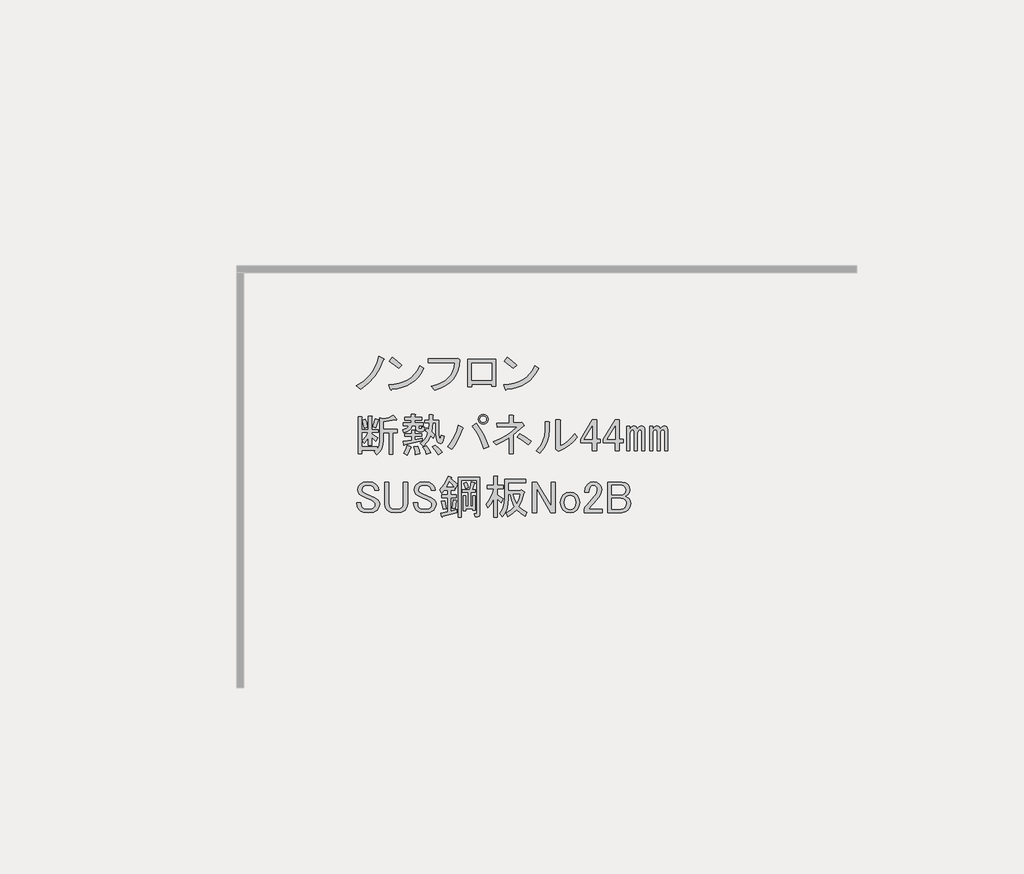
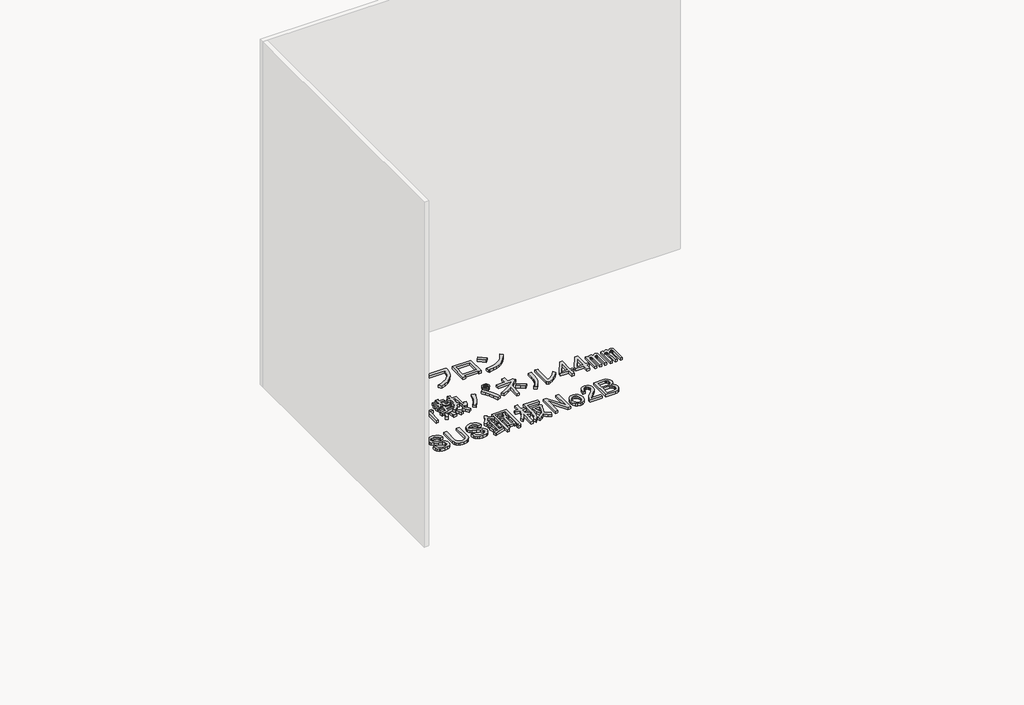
# One storey, part 89 of 117: 1 proxy.
"""IFC4 building model written with IfcOpenShell, lengths in millimetres."""

from ifc_helpers import new_model, si_unit, frame, origin, place, context, project, spatial, polyline, outline, extrude, element, save

model = new_model("IFC4")

# Units and contexts
model_context = context("Model", 3, world=origin())
ifc_project = project(units=[si_unit("LENGTHUNIT", "METRE", prefix="MILLI")], contexts=[model_context])

# Site, building, storey
site = spatial("IfcSite", under=ifc_project)
building = spatial("IfcBuilding", under=site)
storey = spatial("IfcBuildingStorey", under=building, Name="レベル 1", Elevation=500.0)

# Proxy
placement = place(None, origin())
element("IfcBuildingElementProxy", 1, Name="200㎜\u3000MS Pゴシック", ObjectType="200㎜\u3000MS Pゴシック", at=placement, inside=storey, context=model_context, shape_type="SweptSolid", body=[
    extrude(outline(polyline([(8943.6706985, 11392.9503118), (8918.0952502, 11333.1784775), (8889.646156, 11287.2001434), (8847.9782907, 11241.7965385), (8798.8389462, 11204.439142), (8771.2519457, 11226.2788507), (8818.9544673, 11256.7394971), (8858.6107805, 11295.2463519), (8875.9963381, 11319.1694538), (8891.3703435, 11347.2593423), (8904.7327969, 11379.5160173), (8916.0836981, 11415.9394788), (8947.1190736, 11402.1459786), (8950.2800841, 11397.5481452), (8943.6706985, 11392.9503118)])), frame((0.0, 0.0, 500.0), z_axis=(0.0, 0.0, 1.0), x_axis=(1.0, 0.0, 0.0)), (0.0, 0.0, 1.0), 25.0),
    extrude(outline(polyline([(9043.3977052, 11337.7763109), (8984.7753292, 11384.9041033), (9004.3161212, 11409.0427287), (9031.6157571, 11389.2145721), (9065.2374138, 11359.6160196), (9043.3977052, 11337.7763109)])), frame((0.0, 0.0, 500.0), z_axis=(0.0, 0.0, 1.0), x_axis=(1.0, 0.0, 0.0)), (0.0, 0.0, 1.0), 25.0),
    extrude(outline(polyline([(9205.4713328, 11337.7763109), (9188.947869, 11308.034076), (9169.8381239, 11282.0275808), (9148.1420975, 11259.7568252), (9123.8597898, 11241.2218093), (9096.9912008, 11226.422533), (9067.5363306, 11215.3589964), (9035.495179, 11208.0311994), (9000.8677461, 11204.439142), (8995.1204544, 11196.3929336), (8989.3731626, 11202.1402253), (8980.1774958, 11232.0261425), (9016.0082679, 11234.7022252), (9048.7857912, 11241.0062859), (9078.5100658, 11250.9383244), (9105.1810916, 11264.4983409), (9128.7988687, 11281.6863354), (9149.363397, 11302.5023077), (9166.8746766, 11326.946258), (9181.3327074, 11355.0181862), (9205.4713328, 11337.7763109)])), frame((0.0, 0.0, 500.0), z_axis=(0.0, 0.0, 1.0), x_axis=(1.0, 0.0, 0.0)), (0.0, 0.0, 1.0), 25.0),
    extrude(outline(polyline([(9256.2314136, 11222.8304757), (9290.014713, 11232.5110702), (9319.5234641, 11244.8857078), (9344.757667, 11259.9543884), (9365.7173217, 11277.717112), (9382.402428, 11298.1738786), (9394.8129862, 11321.3246882), (9402.9489961, 11347.1695409), (9406.8104577, 11375.7084365), (9234.3917049, 11375.7084365), (9234.3917049, 11400.9965202), (9409.1093744, 11400.9965202), (9425.2017914, 11404.4448953), (9437.8458332, 11392.9503118), (9434.325617, 11356.4550091), (9426.0638851, 11323.4080815), (9413.0606375, 11293.8095289), (9395.3158742, 11267.6593514), (9372.8295952, 11244.957549), (9345.6018005, 11225.7041216), (9313.6324901, 11209.8990692), (9276.921664, 11197.5423919), (9256.2314136, 11222.8304757)])), frame((0.0, 0.0, 500.0), z_axis=(0.0, 0.0, 1.0), x_axis=(1.0, 0.0, 0.0)), (0.0, 0.0, 1.0), 25.0),
    extrude(outline(polyline([(9670.955987, 11223.979934), (9644.5184449, 11223.979934), (9644.5184449, 11236.6239759), (9516.9285679, 11236.6239759), (9516.9285679, 11218.2326423), (9490.4910258, 11218.2326423), (9490.4910258, 11397.5481452), (9670.955987, 11397.5481452), (9670.955987, 11223.979934)]), holes=[polyline([(9516.9285679, 11372.2600614), (9516.9285679, 11261.9120596), (9644.5184449, 11261.9120596), (9644.5184449, 11372.2600614), (9516.9285679, 11372.2600614)])]), frame((0.0, 0.0, 500.0), z_axis=(0.0, 0.0, 1.0), x_axis=(1.0, 0.0, 0.0)), (0.0, 0.0, 1.0), 25.0),
    extrude(outline(polyline([(9947.0099049, 11337.7763109), (9930.4864411, 11308.034076), (9911.376696, 11282.0275808), (9889.6806696, 11259.7568252), (9865.3983619, 11241.2218093), (9838.5297729, 11226.422533), (9809.0749026, 11215.3589964), (9777.0337511, 11208.0311994), (9742.4063182, 11204.439142), (9736.6590264, 11196.3929336), (9730.9117347, 11202.1402253), (9721.7160679, 11232.0261425), (9757.5468399, 11234.7022252), (9790.3243633, 11241.0062859), (9820.0486378, 11250.9383244), (9846.7196637, 11264.4983409), (9870.3374407, 11281.6863354), (9890.9019691, 11302.5023077), (9908.4132486, 11326.946258), (9922.8712795, 11355.0181862), (9947.0099049, 11337.7763109)])), frame((0.0, 0.0, 500.0), z_axis=(0.0, 0.0, 1.0), x_axis=(1.0, 0.0, 0.0)), (0.0, 0.0, 1.0), 25.0),
    extrude(outline(polyline([(9784.9362772, 11337.7763109), (9726.3139013, 11384.9041033), (9745.8546933, 11409.0427287), (9773.1543291, 11389.2145721), (9806.7759859, 11359.6160196), (9784.9362772, 11337.7763109)])), frame((0.0, 0.0, 500.0), z_axis=(0.0, 0.0, 1.0), x_axis=(1.0, 0.0, 0.0)), (0.0, 0.0, 1.0), 25.0),
    extrude(outline(polyline([(8877.0021141, 10960.7654779), (8894.2439894, 11013.6405621), (8914.9342397, 11007.8932704), (8916.6584273, 11004.7322599), (8912.635323, 11002.1459786), (8895.3934478, 10953.8687278), (8877.0021141, 10960.7654779)])), frame((0.0, 0.0, 500.0), z_axis=(0.0, 0.0, 1.0), x_axis=(1.0, 0.0, 0.0)), (0.0, 0.0, 1.0), 25.0),
    extrude(outline(polyline([(9031.0295333, 11009.0427287), (9029.3053458, 11004.4448953), (9021.8338665, 11006.743812), (8944.8201569, 10994.0997701), (8944.8201569, 10944.673061), (9036.7768251, 10944.673061), (9036.7768251, 10922.8333523), (9005.7414495, 10922.8333523), (9005.7414495, 10782.5994334), (8982.7522825, 10782.5994334), (8982.7522825, 10922.8333523), (8944.8201569, 10922.8333523), (8944.8201569, 10873.4066432), (8942.2338756, 10845.6041193), (8934.4750317, 10820.8189236), (8921.5436253, 10799.051056), (8903.4396562, 10780.3005167), (8886.1977809, 10799.8413086), (8896.5429061, 10809.0369755), (8806.8851546, 10809.0369755), (8806.8851546, 10787.1972668), (8783.8959876, 10787.1972668), (8783.8959876, 11026.284604), (8805.7356963, 11026.284604), (8810.6208943, 11023.9856873), (8806.8851546, 11019.3878539), (8806.8851546, 10943.5236026), (8849.4151137, 10943.5236026), (8849.4151137, 11030.8824374), (8867.8064473, 11030.8824374), (8872.6916453, 11028.5835207), (8868.9559057, 11023.9856873), (8868.9559057, 10943.5236026), (8912.635323, 10943.5236026), (8912.635323, 10925.132269), (8868.9559057, 10925.132269), (8868.9559057, 10915.9366022), (8909.186948, 10889.4990601), (8895.3934478, 10867.6593514), (8868.9559057, 10894.0968935), (8868.9559057, 10841.2218093), (8849.4151137, 10841.2218093), (8849.4151137, 10889.4990601), (8836.1963426, 10869.6709035), (8821.8281132, 10853.8658512), (8809.1840713, 10872.2571848), (8831.02378, 10896.3958102), (8848.2656553, 10925.132269), (8806.8851546, 10925.132269), (8806.8851546, 10830.8766841), (8904.5891146, 10830.8766841), (8904.5891146, 10817.0831839), (8917.520521, 10841.2218093), (8921.8309898, 10874.5561015), (8921.8309898, 11019.3878539), (8943.6706985, 11013.6405621), (8979.8786366, 11021.1120414), (9010.339283, 11034.3308125), (9031.0295333, 11009.0427287)])), frame((0.0, 0.0, 500.0), z_axis=(0.0, 0.0, 1.0), x_axis=(1.0, 0.0, 0.0)), (0.0, 0.0, 1.0), 25.0),
    extrude(outline(polyline([(8822.9775716, 10952.7192695), (8810.3335297, 11003.2954369), (8829.8743217, 11010.1921871), (8837.6331656, 10986.0535617), (8842.5183636, 10959.6160196), (8822.9775716, 10952.7192695)])), frame((0.0, 0.0, 500.0), z_axis=(0.0, 0.0, 1.0), x_axis=(1.0, 0.0, 0.0)), (0.0, 0.0, 1.0), 25.0),
    extrude(outline(polyline([(9121.8367431, 10832.0261425), (9125.2851182, 10827.1409445), (9119.5378264, 10823.979934), (9109.7674304, 10798.4044857), (9098.8475761, 10779.1510583), (9075.858409, 10790.6456418), (9088.5024509, 10814.209538), (9098.8475761, 10841.2218093), (9121.8367431, 10832.0261425)])), frame((0.0, 0.0, 500.0), z_axis=(0.0, 0.0, 1.0), x_axis=(1.0, 0.0, 0.0)), (0.0, 0.0, 1.0), 25.0),
    extrude(outline(polyline([(9166.6656188, 10836.6239759), (9176.7233794, 10809.32434), (9181.6085774, 10787.1972668), (9152.8721186, 10781.449975), (9150.2858373, 10803.0023191), (9142.5269934, 10833.1756008), (9166.6656188, 10836.6239759)])), frame((0.0, 0.0, 500.0), z_axis=(0.0, 0.0, 1.0), x_axis=(1.0, 0.0, 0.0)), (0.0, 0.0, 1.0), 25.0),
    extrude(outline(polyline([(9281.611454, 10842.3712677), (9306.3248086, 10821.1062881), (9325.2908714, 10796.3929336), (9298.8533293, 10781.449975), (9279.5999019, 10811.0485276), (9260.9212037, 10830.8766841), (9281.611454, 10842.3712677)])), frame((0.0, 0.0, 500.0), z_axis=(0.0, 0.0, 1.0), x_axis=(1.0, 0.0, 0.0)), (0.0, 0.0, 1.0), 25.0),
    extrude(outline(polyline([(9222.9890781, 10783.7488917), (9214.655505, 10808.4622463), (9201.1493694, 10829.7272258), (9221.8396197, 10837.7734343), (9238.7941304, 10816.2210902), (9250.5760785, 10792.9445585), (9222.9890781, 10783.7488917)])), frame((0.0, 0.0, 500.0), z_axis=(0.0, 0.0, 1.0), x_axis=(1.0, 0.0, 0.0)), (0.0, 0.0, 1.0), 25.0),
    extrude(outline(polyline([(9083.9046175, 10846.9691011), (9081.8930654, 10842.0839031), (9078.1573257, 10843.520726), (9072.410034, 10867.6593514), (9127.5840349, 10875.7055599), (9127.5840349, 10898.6947269), (9083.9046175, 10898.6947269), (9083.9046175, 10917.0860605), (9127.5840349, 10917.0860605), (9127.5840349, 10940.0752276), (9145.9753685, 10940.0752276), (9150.8605665, 10937.7763109), (9147.1248268, 10933.1784775), (9147.1248268, 10917.0860605), (9191.9537026, 10917.0860605), (9191.9537026, 10898.6947269), (9147.1248268, 10898.6947269), (9147.1248268, 10879.1539349), (9197.7009943, 10888.3496017), (9197.7009943, 10872.2571848), (9083.9046175, 10846.9691011)])), frame((0.0, 0.0, 500.0), z_axis=(0.0, 0.0, 1.0), x_axis=(1.0, 0.0, 0.0)), (0.0, 0.0, 1.0), 25.0),
    extrude(outline(polyline([(9154.021577, 10968.8116864), (9128.7334932, 10968.8116864), (9124.1356598, 10951.3542877), (9113.7905346, 10938.0636755), (9097.6981177, 10928.9398498), (9075.858409, 10923.9828107), (9071.2605756, 10943.5236026), (9096.5486594, 10952.1445403), (9104.0201386, 10959.4723373), (9108.0432429, 10968.8116864), (9072.410034, 10968.8116864), (9072.410034, 10987.20302), (9126.4345765, 10987.20302), (9126.4345765, 11004.4448953), (9082.7551591, 11004.4448953), (9082.7551591, 11022.8362289), (9126.4345765, 11022.8362289), (9126.4345765, 11041.2275626), (9148.2742852, 11041.2275626), (9153.1594832, 11038.9286459), (9149.4237436, 11034.3308125), (9149.4237436, 11022.8362289), (9191.9537026, 11022.8362289), (9191.9537026, 11004.4448953), (9149.4237436, 11004.4448953), (9149.4237436, 10987.20302), (9202.2988277, 10987.20302), (9202.2988277, 10968.8116864), (9173.5623689, 10968.8116864), (9173.5623689, 10956.1676445), (9174.9991919, 10950.9950819), (9179.3096607, 10949.2708944), (9189.6547859, 10949.2708944), (9193.3905255, 10952.4319049), (9193.1031609, 10961.9149363), (9212.6439529, 10959.6160196), (9209.770307, 10938.0636755), (9204.4540622, 10932.6755894), (9196.551536, 10930.8795608), (9172.4129106, 10930.8795608), (9158.6194104, 10935.7647588), (9154.021577, 10950.4203528), (9154.021577, 10968.8116864)])), frame((0.0, 0.0, 500.0), z_axis=(0.0, 0.0, 1.0), x_axis=(1.0, 0.0, 0.0)), (0.0, 0.0, 1.0), 25.0),
    extrude(outline(polyline([(9285.0598291, 10986.0535617), (9263.2201204, 10986.0535617), (9258.622287, 10928.5806441), (9278.163079, 10910.1893104), (9267.8179538, 10888.3496017), (9251.7255369, 10904.4420187), (9232.4721095, 10866.7972576), (9202.2988277, 10834.3250592), (9185.0569525, 10855.0153095), (9200.1435933, 10866.9409399), (9213.2186821, 10882.0275808), (9224.2822187, 10900.2752321), (9233.3342033, 10921.683894), (9216.092328, 10936.6268525), (9224.1385364, 10953.8687278), (9237.9320367, 10943.5236026), (9240.2309534, 10986.0535617), (9212.6439529, 10986.0535617), (9212.6439529, 11004.4448953), (9240.2309534, 11004.4448953), (9240.2309534, 11038.9286459), (9262.0706621, 11038.9286459), (9266.95586, 11036.6297292), (9263.2201204, 11032.0318957), (9263.2201204, 11004.4448953), (9304.6006211, 11004.4448953), (9304.6006211, 10907.8903937), (9308.0489961, 10883.7517683), (9311.2818477, 10881.7402162), (9314.0836525, 10884.9012267), (9318.3941213, 10906.7409354), (9337.9349133, 10899.8441853), (9333.408921, 10873.0474374), (9325.578236, 10857.0268616), (9314.4428582, 10851.7824579), (9300.0027877, 10857.3142262), (9293.4652433, 10864.6420232), (9288.7955687, 10876.280289), (9285.0598291, 10912.4882271), (9285.0598291, 10986.0535617)])), frame((0.0, 0.0, 500.0), z_axis=(0.0, 0.0, 1.0), x_axis=(1.0, 0.0, 0.0)), (0.0, 0.0, 1.0), 25.0),
    extrude(outline(polyline([(9543.6879583, 10983.754645), (9570.3410238, 10947.0438188), (9592.8273029, 10909.3272167), (9611.1467953, 10870.6048384), (9625.2995013, 10830.8766841), (9594.2641258, 10820.531559), (9578.8182792, 10863.6362472), (9561.2171982, 10902.143102), (9541.4608827, 10936.0521234), (9519.5493329, 10965.3633113), (9543.6879583, 10983.754645)])), frame((0.0, 0.0, 500.0), z_axis=(0.0, 0.0, 1.0), x_axis=(1.0, 0.0, 0.0)), (0.0, 0.0, 1.0), 25.0),
    extrude(outline(polyline([(9456.3291235, 10957.3171029), (9460.3522278, 10951.8571757), (9454.0302068, 10946.9719777), (9442.1045764, 10911.5542922), (9427.0179356, 10877.717112), (9408.7702842, 10845.460437), (9387.3616224, 10814.7842672), (9360.9240803, 10832.0261425), (9384.1287708, 10863.4925649), (9403.1666748, 10896.9705394), (9418.0377922, 10932.460066), (9428.7421231, 10969.9611447), (9456.3291235, 10957.3171029)])), frame((0.0, 0.0, 500.0), z_axis=(0.0, 0.0, 1.0), x_axis=(1.0, 0.0, 0.0)), (0.0, 0.0, 1.0), 25.0),
    extrude(outline(polyline([(9589.6662924, 10978.0073532), (9577.0222505, 10980.3062699), (9566.6771253, 10987.20302), (9559.7803752, 10997.5481452), (9557.4814585, 11010.1921871), (9559.7803752, 11022.8362289), (9566.6771253, 11033.1813541), (9577.0222505, 11040.0781042), (9589.6662924, 11042.3770209), (9602.3103343, 11040.0781042), (9612.6554594, 11033.1813541), (9619.5522095, 11022.8362289), (9621.8511262, 11010.1921871), (9619.5522095, 10997.5481452), (9612.6554594, 10987.20302), (9602.3103343, 10980.3062699), (9589.6662924, 10978.0073532)]), holes=[polyline([(9589.6662924, 10989.5019367), (9597.9998654, 10990.9387597), (9604.609251, 10995.2492285), (9608.9197198, 11001.858614), (9610.3565427, 11010.1921871), (9608.9197198, 11018.5257601), (9604.609251, 11025.1351456), (9597.9998654, 11029.4456145), (9589.6662924, 11030.8824374), (9581.3327193, 11029.4456145), (9574.7233338, 11025.1351456), (9570.412865, 11018.5257601), (9568.976042, 11010.1921871), (9570.412865, 11001.858614), (9574.7233338, 10995.2492285), (9581.3327193, 10990.9387597), (9589.6662924, 10989.5019367)])]), frame((0.0, 0.0, 500.0), z_axis=(0.0, 0.0, 1.0), x_axis=(1.0, 0.0, 0.0)), (0.0, 0.0, 1.0), 25.0),
    extrude(outline(polyline([(9879.3297971, 10844.6701844), (9842.2597652, 10873.9813723), (9809.2128376, 10895.2463519), (9826.4547129, 10917.0860605), (9865.2489323, 10893.8095289), (9898.8705891, 10867.6593514), (9879.3297971, 10844.6701844)])), frame((0.0, 0.0, 500.0), z_axis=(0.0, 0.0, 1.0), x_axis=(1.0, 0.0, 0.0)), (0.0, 0.0, 1.0), 25.0),
    extrude(outline(polyline([(9833.351463, 10988.3524784), (9840.2482131, 10990.6513951), (9852.892255, 10973.4095198), (9854.0417134, 10967.3748634), (9848.2944216, 10965.3633113), (9785.0742122, 10909.0398521), (9785.0742122, 10788.3467251), (9758.6366701, 10788.3467251), (9758.6366701, 10890.6485184), (9718.4056278, 10866.5098931), (9673.5767521, 10844.6701844), (9654.0359601, 10865.3604347), (9699.5832473, 10884.8293855), (9740.8200657, 10907.6030291), (9777.7464152, 10933.6813655), (9810.362296, 10963.0643946), (9680.4735022, 10957.3171029), (9677.0251271, 10982.6051866), (9758.6366701, 10984.9041033), (9758.6366701, 11036.6297292), (9781.6258372, 11036.6297292), (9787.6604935, 11033.1813541), (9785.0742122, 11027.4340623), (9785.0742122, 10986.0535617), (9833.351463, 10988.3524784)])), frame((0.0, 0.0, 500.0), z_axis=(0.0, 0.0, 1.0), x_axis=(1.0, 0.0, 0.0)), (0.0, 0.0, 1.0), 25.0),
    extrude(outline(polyline([(9932.296838, 10806.7380587), (9957.4412394, 10835.9774056), (9975.4015262, 10868.5214452), (9986.1776982, 10904.3701775), (9989.7697556, 10943.5236026), (9989.7697556, 10995.2492285), (10013.908381, 10995.2492285), (10019.6556727, 10991.8008534), (10016.2072977, 10986.0535617), (10016.2072977, 10944.673061), (10012.3997169, 10898.9102504), (10000.9769745, 10858.17632), (9981.9390705, 10822.4712699), (9955.286005, 10791.7951002), (9932.296838, 10806.7380587)])), frame((0.0, 0.0, 500.0), z_axis=(0.0, 0.0, 1.0), x_axis=(1.0, 0.0, 0.0)), (0.0, 0.0, 1.0), 25.0),
    extrude(outline(polyline([(10086.3242571, 10837.7734343), (10111.1094529, 10849.9864292), (10134.8888725, 10867.0846222), (10157.6625161, 10889.0680132), (10179.4303837, 10915.9366022), (10195.5228006, 10894.0968935), (10172.246269, 10866.2943696), (10146.0960914, 10842.6586322), (10117.0722681, 10823.1896814), (10085.1747988, 10807.8875171), (10075.979132, 10803.2896837), (10057.5877983, 10817.0831839), (10059.886715, 10822.8304757), (10059.886715, 11007.8932704), (10084.0253404, 11007.8932704), (10089.7726322, 11004.4448953), (10086.3242571, 10998.6976035), (10086.3242571, 10837.7734343)])), frame((0.0, 0.0, 500.0), z_axis=(0.0, 0.0, 1.0), x_axis=(1.0, 0.0, 0.0)), (0.0, 0.0, 1.0), 25.0),
    extrude(outline(polyline([(10295.5256772, 11006.743812), (10321.9632193, 11006.743812), (10321.9632193, 10880.3033933), (10346.1018447, 10880.3033933), (10346.1018447, 10858.4636846), (10321.9632193, 10858.4636846), (10321.9632193, 10807.8875171), (10295.5256772, 10807.8875171), (10295.5256772, 10858.4636846), (10218.5119676, 10858.4636846), (10218.5119676, 10881.4528516), (10295.5256772, 11006.743812)]), holes=[polyline([(10295.5256772, 10964.213853), (10243.8000514, 10880.3033933), (10295.5256772, 10880.3033933), (10295.5256772, 10964.213853)])]), frame((0.0, 0.0, 500.0), z_axis=(0.0, 0.0, 1.0), x_axis=(1.0, 0.0, 0.0)), (0.0, 0.0, 1.0), 25.0),
    extrude(outline(polyline([(10442.6563463, 11006.743812), (10469.0938884, 11006.743812), (10469.0938884, 10880.3033933), (10493.2325138, 10880.3033933), (10493.2325138, 10858.4636846), (10469.0938884, 10858.4636846), (10469.0938884, 10807.8875171), (10442.6563463, 10807.8875171), (10442.6563463, 10858.4636846), (10365.6426367, 10858.4636846), (10365.6426367, 10881.4528516), (10442.6563463, 11006.743812)]), holes=[polyline([(10442.6563463, 10964.213853), (10390.9307204, 10880.3033933), (10442.6563463, 10880.3033933), (10442.6563463, 10964.213853)])]), frame((0.0, 0.0, 500.0), z_axis=(0.0, 0.0, 1.0), x_axis=(1.0, 0.0, 0.0)), (0.0, 0.0, 1.0), 25.0),
    extrude(outline(polyline([(10536.9119311, 10806.7380587), (10517.3711392, 10806.7380587), (10517.3711392, 10964.213853), (10536.9119311, 10964.213853), (10536.9119311, 10946.9719777), (10548.9812438, 10962.4896654), (10562.2000149, 10967.662228), (10571.3956817, 10966.2254051), (10578.2924318, 10961.9149363), (10585.1891819, 10948.121436), (10598.1205884, 10962.77703), (10611.626724, 10967.662228), (10619.9602971, 10966.2254051), (10626.5696826, 10961.9149363), (10631.7422452, 10953.2939986), (10633.4664327, 10941.2246859), (10633.4664327, 10806.7380587), (10613.9256407, 10806.7380587), (10613.9256407, 10930.8795608), (10611.3393594, 10940.3625922), (10603.5805156, 10943.5236026), (10593.2353904, 10938.9257692), (10587.200734, 10930.3048316), (10585.1891819, 10920.5344356), (10585.1891819, 10806.7380587), (10565.6483899, 10806.7380587), (10565.6483899, 10930.8795608), (10563.0621086, 10940.3625922), (10555.3032648, 10943.5236026), (10544.9581396, 10938.9257692), (10538.9234833, 10930.3048316), (10536.9119311, 10920.5344356), (10536.9119311, 10806.7380587)])), frame((0.0, 0.0, 500.0), z_axis=(0.0, 0.0, 1.0), x_axis=(1.0, 0.0, 0.0)), (0.0, 0.0, 1.0), 25.0),
    extrude(outline(polyline([(10758.7573931, 10967.662228), (10767.0909661, 10966.2254051), (10773.7003517, 10961.9149363), (10778.8729142, 10953.2939986), (10780.5971018, 10941.2246859), (10780.5971018, 10806.7380587), (10761.0563098, 10806.7380587), (10761.0563098, 10930.8795608), (10758.4700285, 10940.3625922), (10750.7111846, 10943.5236026), (10740.3660594, 10938.9257692), (10734.3314031, 10930.3048316), (10732.319851, 10920.5344356), (10732.319851, 10806.7380587), (10712.779059, 10806.7380587), (10712.779059, 10930.8795608), (10710.1927777, 10940.3625922), (10702.4339338, 10943.5236026), (10692.0888087, 10938.9257692), (10686.0541523, 10930.3048316), (10684.0426002, 10920.5344356), (10684.0426002, 10806.7380587), (10664.5018082, 10806.7380587), (10664.5018082, 10964.213853), (10684.0426002, 10964.213853), (10684.0426002, 10946.9719777), (10696.1119129, 10962.4896654), (10709.3306839, 10967.662228), (10718.5263508, 10966.2254051), (10725.4231009, 10961.9149363), (10732.319851, 10948.121436), (10745.2512574, 10962.77703), (10758.7573931, 10967.662228)])), frame((0.0, 0.0, 500.0), z_axis=(0.0, 0.0, 1.0), x_axis=(1.0, 0.0, 0.0)), (0.0, 0.0, 1.0), 25.0),
    extrude(outline(polyline([(8779.2981542, 10552.7192695), (8783.3212584, 10573.1221552), (8795.3905711, 10590.6513951), (8815.7934569, 10602.7207078), (8844.8172803, 10606.743812), (8876.1400204, 10602.1459786), (8898.8418228, 10588.3524784), (8910.9111355, 10570.8232385), (8914.9342397, 10550.4203528), (8888.4966976, 10550.4203528), (8886.1977809, 10563.0643946), (8879.3010308, 10573.4095198), (8866.0822598, 10581.1683637), (8847.116197, 10583.754645), (8826.7133112, 10581.4557283), (8813.7819048, 10574.5589781), (8807.7472484, 10565.9380405), (8805.7356963, 10556.1676445), (8810.3335297, 10541.2246859), (8831.02378, 10529.7301024), (8890.7956143, 10503.2925603), (8908.0374896, 10491.7979768), (8917.520521, 10478.0044766), (8920.6815315, 10461.9120596), (8916.6584273, 10440.6470801), (8904.5891146, 10422.8304757), (8894.6031951, 10415.2871552), (8881.8873121, 10409.8990692), (8848.2656553, 10405.5886004), (8814.6439985, 10410.761163), (8801.0660217, 10417.2268662), (8789.6432794, 10426.2788507), (8778.4360604, 10444.6701844), (8774.7003208, 10469.9582681), (8801.1378629, 10469.9582681), (8803.4367796, 10452.1416637), (8810.3335297, 10440.072351), (8826.4259466, 10430.5893196), (8849.4151137, 10427.4283091), (8870.3927286, 10430.301955), (8885.0483226, 10438.9228926), (8891.9450727, 10448.1185594), (8894.2439894, 10457.3142262), (8892.5198019, 10466.7972576), (8887.3472393, 10474.5561015), (8868.9559057, 10486.050685), (8839.0699885, 10499.8441853), (8805.7356963, 10514.7871438), (8789.6432794, 10525.132269), (8781.8844355, 10537.2015817), (8779.2981542, 10552.7192695)])), frame((0.0, 0.0, 500.0), z_axis=(0.0, 0.0, 1.0), x_axis=(1.0, 0.0, 0.0)), (0.0, 0.0, 1.0), 25.0),
    extrude(outline(polyline([(8954.7054987, 10604.4448953), (8981.1430408, 10604.4448953), (8981.1430408, 10466.5098931), (8983.7293221, 10451.8542991), (8991.488166, 10440.072351), (9007.0058537, 10430.5893196), (9028.2708332, 10427.4283091), (9049.5358128, 10430.5893196), (9065.0535005, 10440.072351), (9072.8123444, 10451.8542991), (9075.3986257, 10466.5098931), (9075.3986257, 10604.4448953), (9101.8361678, 10604.4448953), (9101.8361678, 10465.3604347), (9097.8130635, 10442.3712677), (9085.7437508, 10423.979934), (9075.2549434, 10415.9337256), (9062.1798546, 10410.1864338), (9028.2708332, 10405.5886004), (8994.3618119, 10410.1864338), (8981.2867231, 10415.9337256), (8970.7979156, 10423.979934), (8958.7286029, 10442.3712677), (8954.7054987, 10465.3604347), (8954.7054987, 10604.4448953)])), frame((0.0, 0.0, 500.0), z_axis=(0.0, 0.0, 1.0), x_axis=(1.0, 0.0, 0.0)), (0.0, 0.0, 1.0), 25.0),
    extrude(outline(polyline([(9144.1822135, 10552.7192695), (9148.2053177, 10573.1221552), (9160.2746304, 10590.6513951), (9180.6775161, 10602.7207078), (9209.7013395, 10606.743812), (9241.0240796, 10602.1459786), (9263.7258821, 10588.3524784), (9275.7951948, 10570.8232385), (9279.818299, 10550.4203528), (9253.3807569, 10550.4203528), (9251.0818402, 10563.0643946), (9244.1850901, 10573.4095198), (9230.966319, 10581.1683637), (9212.0002562, 10583.754645), (9191.5973705, 10581.4557283), (9178.665964, 10574.5589781), (9172.6313077, 10565.9380405), (9170.6197556, 10556.1676445), (9175.217589, 10541.2246859), (9195.9078393, 10529.7301024), (9255.6796736, 10503.2925603), (9272.9215489, 10491.7979768), (9282.4045803, 10478.0044766), (9285.5655908, 10461.9120596), (9281.5424865, 10440.6470801), (9269.4731738, 10422.8304757), (9259.4872544, 10415.2871552), (9246.7713714, 10409.8990692), (9213.1497146, 10405.5886004), (9179.5280578, 10410.761163), (9165.950081, 10417.2268662), (9154.5273386, 10426.2788507), (9143.3201197, 10444.6701844), (9139.5843801, 10469.9582681), (9166.0219222, 10469.9582681), (9168.3208389, 10452.1416637), (9175.217589, 10440.072351), (9191.3100059, 10430.5893196), (9214.2991729, 10427.4283091), (9235.2767879, 10430.301955), (9249.9323819, 10438.9228926), (9256.829132, 10448.1185594), (9259.1280487, 10457.3142262), (9257.4038611, 10466.7972576), (9252.2312986, 10474.5561015), (9233.8399649, 10486.050685), (9203.9540478, 10499.8441853), (9170.6197556, 10514.7871438), (9154.5273386, 10525.132269), (9146.7684948, 10537.2015817), (9144.1822135, 10552.7192695)])), frame((0.0, 0.0, 500.0), z_axis=(0.0, 0.0, 1.0), x_axis=(1.0, 0.0, 0.0)), (0.0, 0.0, 1.0), 25.0),
    extrude(outline(polyline([(9428.7881014, 10634.3308125), (9569.0220204, 10634.3308125), (9569.0220204, 10394.0940169), (9565.2862807, 10382.8867979), (9554.0790618, 10379.1510583), (9537.9866449, 10379.1510583), (9533.3888115, 10400.990767), (9544.883395, 10400.990767), (9548.33177, 10402.1402253), (9549.4812284, 10405.5886004), (9549.4812284, 10615.9394788), (9448.3288934, 10615.9394788), (9448.3288934, 10376.8521416), (9428.7881014, 10376.8521416), (9428.7881014, 10634.3308125)])), frame((0.0, 0.0, 500.0), z_axis=(0.0, 0.0, 1.0), x_axis=(1.0, 0.0, 0.0)), (0.0, 0.0, 1.0), 25.0),
    extrude(outline(polyline([(9417.2935179, 10486.050685), (9419.8797992, 10482.8896746), (9416.1440596, 10480.3033933), (9408.0978511, 10433.1756008), (9389.7065175, 10435.4745175), (9395.4538092, 10489.4990601), (9417.2935179, 10486.050685)])), frame((0.0, 0.0, 500.0), z_axis=(0.0, 0.0, 1.0), x_axis=(1.0, 0.0, 0.0)), (0.0, 0.0, 1.0), 25.0),
    extrude(outline(polyline([(9413.8451429, 10565.3633113), (9372.4646422, 10609.0427287), (9350.6249335, 10569.9611447), (9405.7989344, 10569.9611447), (9405.7989344, 10551.5698111), (9379.3613923, 10551.5698111), (9379.3613923, 10522.8333523), (9417.2935179, 10522.8333523), (9417.2935179, 10504.4420187), (9379.3613923, 10504.4420187), (9379.3613923, 10417.0831839), (9418.4429763, 10427.4283091), (9420.741893, 10407.8875171), (9328.7852248, 10382.5994334), (9326.4863081, 10376.8521416), (9321.8884747, 10380.3005167), (9314.9917246, 10403.2896837), (9359.8206003, 10412.4853505), (9359.8206003, 10504.4420187), (9321.8884747, 10504.4420187), (9321.8884747, 10522.8333523), (9359.8206003, 10522.8333523), (9359.8206003, 10551.5698111), (9337.9808916, 10551.5698111), (9323.037933, 10533.1784775), (9310.3938912, 10553.8687278), (9338.5556208, 10591.5134888), (9363.2689754, 10642.3770209), (9385.1086841, 10636.6297292), (9388.5570591, 10632.8939895), (9382.8097674, 10630.8824374), (9381.660309, 10627.4340623), (9426.4891847, 10589.5019367), (9413.8451429, 10565.3633113)])), frame((0.0, 0.0, 500.0), z_axis=(0.0, 0.0, 1.0), x_axis=(1.0, 0.0, 0.0)), (0.0, 0.0, 1.0), 25.0),
    extrude(outline(polyline([(9340.2798083, 10484.9012267), (9351.7743918, 10433.1756008), (9331.0841415, 10427.4283091), (9319.589558, 10479.1539349), (9340.2798083, 10484.9012267)])), frame((0.0, 0.0, 500.0), z_axis=(0.0, 0.0, 1.0), x_axis=(1.0, 0.0, 0.0)), (0.0, 0.0, 1.0), 25.0),
    extrude(outline(polyline([(9481.6631856, 10602.1459786), (9488.8473003, 10586.9156554), (9494.3072275, 10566.5127697), (9477.0653522, 10560.7654779), (9465.5707687, 10597.5481452), (9481.6631856, 10602.1459786)])), frame((0.0, 0.0, 500.0), z_axis=(0.0, 0.0, 1.0), x_axis=(1.0, 0.0, 0.0)), (0.0, 0.0, 1.0), 25.0),
    extrude(outline(polyline([(9534.5382698, 10600.9965202), (9537.1245511, 10597.5481452), (9531.0898948, 10594.0997701), (9518.4458529, 10556.1676445), (9539.1361032, 10556.1676445), (9539.1361032, 10537.7763109), (9508.1007277, 10537.7763109), (9508.1007277, 10449.2680178), (9523.0436863, 10449.2680178), (9523.0436863, 10517.0860605), (9539.1361032, 10517.0860605), (9539.1361032, 10422.8304757), (9523.0436863, 10422.8304757), (9523.0436863, 10430.8766841), (9477.0653522, 10430.8766841), (9477.0653522, 10418.2326423), (9460.9729353, 10418.2326423), (9460.9729353, 10514.7871438), (9477.0653522, 10514.7871438), (9477.0653522, 10449.2680178), (9492.0083108, 10449.2680178), (9492.0083108, 10537.7763109), (9456.3751019, 10537.7763109), (9456.3751019, 10556.1676445), (9502.353436, 10556.1676445), (9512.6985611, 10605.5943537), (9534.5382698, 10600.9965202)])), frame((0.0, 0.0, 500.0), z_axis=(0.0, 0.0, 1.0), x_axis=(1.0, 0.0, 0.0)), (0.0, 0.0, 1.0), 25.0),
    extrude(outline(polyline([(9740.2913148, 10405.5886004), (9769.0277736, 10422.8304757), (9790.8674823, 10444.6701844), (9773.0508779, 10486.6254142), (9763.2804819, 10527.4311857), (9750.63644, 10527.4311857), (9750.63644, 10503.2925603), (9748.193841, 10461.5528539), (9740.866044, 10427.1409445), (9728.653049, 10400.0568321), (9711.554856, 10380.3005167), (9697.7613558, 10403.2896837), (9710.8364446, 10420.6752413), (9720.1757937, 10442.9459968), (9725.7794031, 10470.1019504), (9727.647273, 10502.143102), (9727.647273, 10622.8362289), (9864.4328169, 10622.8362289), (9864.4328169, 10600.9965202), (9750.63644, 10600.9965202), (9750.63644, 10549.2708944), (9829.9490663, 10549.2708944), (9835.6963581, 10555.0181862), (9855.23715, 10541.2246859), (9856.673973, 10537.4889463), (9851.788775, 10533.1784775), (9839.4320977, 10486.6254142), (9820.7533995, 10445.8196427), (9839.7194623, 10427.4283091), (9871.329567, 10409.0369755), (9862.1339002, 10384.8983501), (9834.2595351, 10400.990767), (9805.8104409, 10426.2788507), (9781.3844509, 10401.8528608), (9749.4869817, 10381.449975), (9740.2913148, 10405.5886004)]), holes=[polyline([(9785.1201906, 10527.4311857), (9793.166399, 10494.3842581), (9805.8104409, 10466.5098931), (9818.4544828, 10492.6600706), (9826.5006912, 10527.4311857), (9785.1201906, 10527.4311857)])]), frame((0.0, 0.0, 500.0), z_axis=(0.0, 0.0, 1.0), x_axis=(1.0, 0.0, 0.0)), (0.0, 0.0, 1.0), 25.0),
    extrude(outline(polyline([(9657.5303135, 10376.8521416), (9657.5303135, 10496.3958102), (9639.713709, 10462.1994242), (9620.7476462, 10440.072351), (9609.2530627, 10460.7626013), (9626.494938, 10483.4644037), (9640.2884382, 10507.8903937), (9650.6335634, 10534.0405712), (9657.5303135, 10561.9149363), (9616.1498128, 10561.9149363), (9616.1498128, 10583.754645), (9657.5303135, 10583.754645), (9657.5303135, 10643.5264793), (9679.3700222, 10643.5264793), (9684.2552202, 10641.2275626), (9680.5194805, 10636.6297292), (9680.5194805, 10583.754645), (9718.4516061, 10583.754645), (9718.4516061, 10561.9149363), (9680.5194805, 10561.9149363), (9680.5194805, 10521.683894), (9718.4516061, 10495.2463519), (9708.106481, 10472.2571848), (9680.5194805, 10495.2463519), (9680.5194805, 10376.8521416), (9657.5303135, 10376.8521416)])), frame((0.0, 0.0, 500.0), z_axis=(0.0, 0.0, 1.0), x_axis=(1.0, 0.0, 0.0)), (0.0, 0.0, 1.0), 25.0),
    extrude(outline(polyline([(9908.1122342, 10604.4448953), (9936.848693, 10604.4448953), (10028.8053612, 10449.2680178), (10028.8053612, 10604.4448953), (10055.2429033, 10604.4448953), (10055.2429033, 10407.8875171), (10026.5064445, 10407.8875171), (9934.5497763, 10563.0643946), (9934.5497763, 10407.8875171), (9908.1122342, 10407.8875171), (9908.1122342, 10604.4448953)])), frame((0.0, 0.0, 500.0), z_axis=(0.0, 0.0, 1.0), x_axis=(1.0, 0.0, 0.0)), (0.0, 0.0, 1.0), 25.0),
    extrude(outline(polyline([(10088.3932822, 10472.2571848), (10093.2784802, 10499.5568207), (10107.9340742, 10521.683894), (10127.1875015, 10534.6153004), (10150.4640332, 10538.9257692), (10173.7405648, 10534.6153004), (10192.9939922, 10521.683894), (10207.6495862, 10499.5568207), (10212.5347842, 10472.2571848), (10207.6495862, 10444.957549), (10192.9939922, 10422.8304757), (10173.7405648, 10409.8990692), (10150.4640332, 10405.5886004), (10127.1875015, 10409.8990692), (10107.9340742, 10422.8304757), (10093.2784802, 10444.957549), (10088.3932822, 10472.2571848)]), holes=[polyline([(10150.4640332, 10518.2355189), (10137.8199913, 10515.9366022), (10127.4748661, 10509.0398521), (10117.129741, 10492.9474352), (10113.6813659, 10472.2571848), (10116.8423764, 10451.8542991), (10126.3254078, 10436.6239759), (10137.5326267, 10428.865132), (10150.4640332, 10426.2788507), (10163.3954396, 10428.865132), (10174.6026586, 10436.6239759), (10184.08569, 10451.8542991), (10187.2467004, 10472.2571848), (10183.7983254, 10492.9474352), (10173.4532002, 10509.0398521), (10163.1080751, 10515.9366022), (10150.4640332, 10518.2355189)])]), frame((0.0, 0.0, 500.0), z_axis=(0.0, 0.0, 1.0), x_axis=(1.0, 0.0, 0.0)), (0.0, 0.0, 1.0), 25.0),
    extrude(outline(polyline([(10245.3633147, 10537.7763109), (10249.9611481, 10569.099051), (10263.7546484, 10591.8008534), (10280.1344299, 10603.0080724), (10299.3878573, 10606.743812), (10322.0896597, 10603.0080724), (10339.6188996, 10591.8008534), (10350.8261185, 10575.1337073), (10354.5618582, 10555.0181862), (10350.2513893, 10529.1553732), (10337.3199829, 10506.7409354), (10303.9856907, 10468.8088098), (10285.594357, 10448.1185594), (10271.8008568, 10429.7272258), (10358.0102332, 10429.7272258), (10358.0102332, 10407.8875171), (10240.7654813, 10407.8875171), (10240.7654813, 10427.4283091), (10246.8001377, 10441.2218093), (10260.3062733, 10459.6131429), (10307.4340657, 10511.3387688), (10322.0896597, 10532.6037483), (10326.9748577, 10555.0181862), (10324.675941, 10567.662228), (10317.7791909, 10578.0073532), (10310.020347, 10583.1799158), (10300.5373156, 10584.9041033), (10291.916378, 10583.1799158), (10284.4448987, 10578.0073532), (10274.9618673, 10561.6275717), (10271.8008568, 10537.7763109), (10245.3633147, 10537.7763109)])), frame((0.0, 0.0, 500.0), z_axis=(0.0, 0.0, 1.0), x_axis=(1.0, 0.0, 0.0)), (0.0, 0.0, 1.0), 25.0),
    extrude(outline(polyline([(10392.4939838, 10604.4448953), (10484.4506519, 10604.4448953), (10505.4282669, 10600.7091557), (10522.3827776, 10589.5019367), (10532.7279027, 10573.4095198), (10536.1762778, 10552.7192695), (10533.0152673, 10535.7647588), (10523.5322359, 10521.683894), (10506.2903606, 10511.3387688), (10528.1300693, 10498.6947269), (10538.4751945, 10483.1770392), (10541.9235696, 10464.2109763), (10537.6131007, 10440.9344447), (10524.6816943, 10421.6810173), (10507.439819, 10411.3358922), (10483.3011936, 10407.8875171), (10392.4939838, 10407.8875171), (10392.4939838, 10604.4448953)]), holes=[polyline([(10418.9315259, 10582.6051866), (10418.9315259, 10521.683894), (10481.0022769, 10521.683894), (10491.6347666, 10523.6954461), (10500.5430689, 10529.7301024), (10507.439819, 10540.3625922), (10509.7387357, 10553.8687278), (10507.439819, 10565.6506759), (10500.5430689, 10575.7084365), (10492.784225, 10580.8809991), (10483.3011936, 10582.6051866), (10418.9315259, 10582.6051866)]), polyline([(10418.9315259, 10499.8441853), (10418.9315259, 10429.7272258), (10477.5539018, 10429.7272258), (10492.784225, 10432.0261425), (10503.9914439, 10438.9228926), (10511.7502878, 10450.4174761), (10514.3365691, 10464.2109763), (10512.0376524, 10478.5792058), (10505.1409023, 10489.4990601), (10493.0715896, 10497.257904), (10477.5539018, 10499.8441853), (10418.9315259, 10499.8441853)])]), frame((0.0, 0.0, 500.0), z_axis=(0.0, 0.0, 1.0), x_axis=(1.0, 0.0, 0.0)), (0.0, 0.0, 1.0), 25.0),
])

save(model, "model.ifc")
